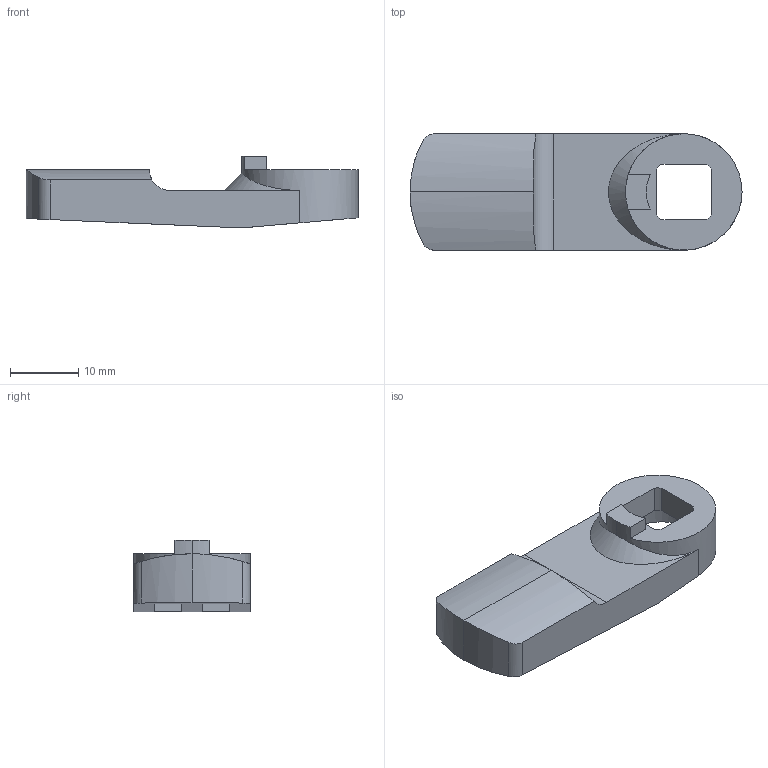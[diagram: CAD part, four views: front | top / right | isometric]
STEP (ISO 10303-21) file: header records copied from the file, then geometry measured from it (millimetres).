
FILE_DESCRIPTION (( 'STEP AP214' ), '1' );
FILE_NAME ('JP2-10018.STEP', '2016-08-17T09:59:11', ( 'RST-Dolba' ), ( '' ), 'SwSTEP 2.0', 'SolidWorks 2015', '' );
FILE_SCHEMA (( 'AUTOMOTIVE_DESIGN' ));
Length unit declared in the file: millimetre
Products named in the file (1): JP2-10018
Bounding box: 48.5 x 17 x 10.5 mm (x, y, z)
Volume: 3839.7 mm3; surface area: 2932 mm2
Topology: 1 solids, 1 shells, 54 faces, 144 edges, 95 vertices
Faces by surface type: plane 28, cylinder 25, bspline 1
Entity records: 1893 total; most frequent: CARTESIAN_POINT 514, ORIENTED_EDGE 288, DIRECTION 271, EDGE_CURVE 144, VERTEX_POINT 95, VECTOR 91, LINE 91, AXIS2_PLACEMENT_3D 90
